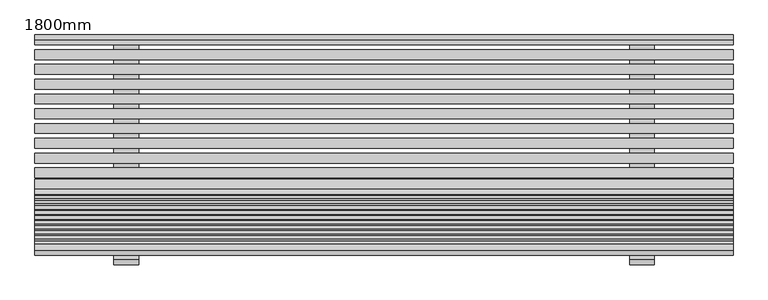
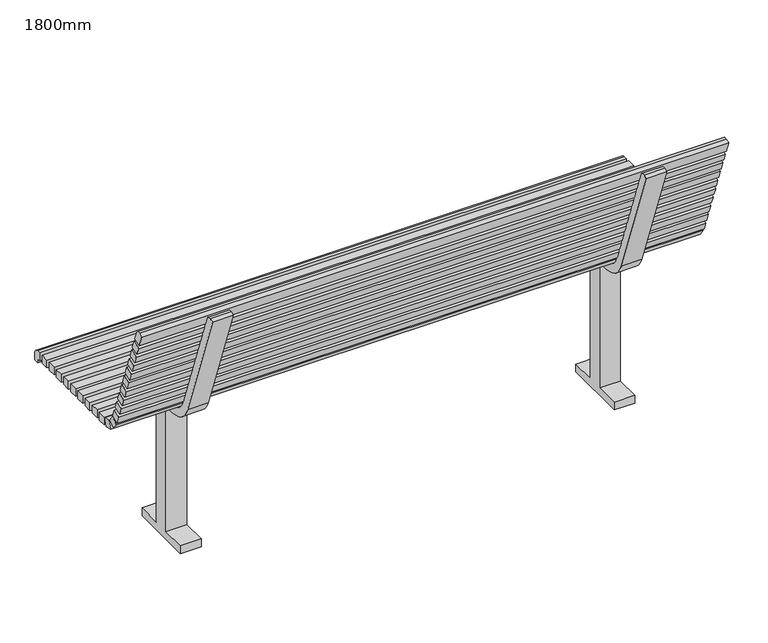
"""IFC4 building model written with IfcOpenShell, lengths in millimetres: geographic element geometry, M_Banco de parque : 1800mm."""

import ifcopenshell
import ifcopenshell.guid

model = None  # the IFC model being written
_history = None  # IfcOwnerHistory: only IFC2X3 demands one
_inside = {}  # id of a spatial element -> (the spatial element, [elements in it])
_under = {}  # id of a project, library or spatial element -> (it, [spatial elements below it])
_declared = {}  # id of a project -> (the project, [libraries it declares])
_typed = {}  # id of a type object -> (the type object, [elements of that type])
_made_of = {}  # id of a material, layer set ... -> (it, [elements and type objects made of it])


def new_model(schema):
    """Start an empty IFC model of exactly this schema.

    Asked for "IFC4X3", IfcOpenShell would pick the latest addendum, in which some entities
    have other attributes; the version numbers below select the first issue.
    IFC2X3 requires an IfcOwnerHistory on every rooted entity: one is made here for all.
    """
    global model, _history
    if schema == "IFC4X3":
        model = ifcopenshell.file(schema_version=(4, 3, 0, 0))
    else:
        model = ifcopenshell.file(schema=schema)
    _inside.clear()
    _under.clear()
    _declared.clear()
    _typed.clear()
    _made_of.clear()
    _history = None
    if model.schema == "IFC2X3":
        org = make("IfcOrganization", Name="unknown")
        user = make(
            "IfcPersonAndOrganization",
            ThePerson=make("IfcPerson", FamilyName="unknown"),
            TheOrganization=org,
        )
        app = make(
            "IfcApplication",
            ApplicationDeveloper=org,
            Version="unknown",
            ApplicationFullName="unknown",
            ApplicationIdentifier="unknown",
        )
        _history = make(
            "IfcOwnerHistory",
            OwningUser=user,
            OwningApplication=app,
            ChangeAction="ADDED",
            CreationDate=0,
        )
    return model


def make(cls, **values):
    """One entity of the class cls with the attributes given. An attribute that is None is left unset."""
    return model.create_entity(
        cls, **{name: value for name, value in values.items() if value is not None}
    )


def rooted(cls, **values):
    """An entity with a GlobalId (a new one), such as an element, a storey or a relation."""
    return make(cls, GlobalId=ifcopenshell.guid.new(), OwnerHistory=_history, **values)


def si_unit(unit_type, name, prefix=None):
    """IfcSIUnit, for example si_unit("LENGTHUNIT", "METRE", prefix="MILLI")."""
    return make("IfcSIUnit", UnitType=unit_type, Prefix=prefix, Name=name)


def assignment(units):
    """IfcUnitAssignment: the units of a project."""
    return None if units is None else make("IfcUnitAssignment", Units=units)


def point(xyz):
    """IfcCartesianPoint."""
    return None if xyz is None else make("IfcCartesianPoint", Coordinates=xyz)


def direction(xyz):
    """IfcDirection."""
    return None if xyz is None else make("IfcDirection", DirectionRatios=xyz)


def frame(location, z_axis=None, x_axis=None):
    """IfcAxis2Placement3D, a coordinate frame: its origin and axes. An axis left out is left unset."""
    return make(
        "IfcAxis2Placement3D",
        Location=point(location),
        Axis=direction(z_axis),
        RefDirection=direction(x_axis),
    )


def frame_2d(location, x_axis=None):
    """IfcAxis2Placement2D, a coordinate frame in the plane: its origin and x axis."""
    return make(
        "IfcAxis2Placement2D", Location=point(location), RefDirection=direction(x_axis)
    )


def origin():
    """The frame at (0, 0, 0) with its axes left unset."""
    return frame((0.0, 0.0, 0.0))


def place(relative_to, where):
    """IfcLocalPlacement: puts the frame where relative to a parent placement (None: the world)."""
    return make(
        "IfcLocalPlacement", PlacementRelTo=relative_to, RelativePlacement=where
    )


def context(
    kind, dimensions, precision=None, world=None, true_north=None, identifier=None
):
    """IfcGeometricRepresentationContext, for example the 3D "Model" context."""
    return make(
        "IfcGeometricRepresentationContext",
        ContextIdentifier=identifier,
        ContextType=kind,
        CoordinateSpaceDimension=dimensions,
        Precision=precision,
        WorldCoordinateSystem=world,
        TrueNorth=true_north,
    )


def project(units=None, contexts=None):
    """IfcProject with its units and contexts."""
    return rooted(
        "IfcProject",
        Name="project",
        RepresentationContexts=contexts,
        UnitsInContext=assignment(units),
    )


def spatial(cls, under=None, at=None, **own):
    """A site, building, storey or space (cls), placed at a placement, below another one or the project."""
    s = rooted(cls, ObjectPlacement=at, **own)
    if under is not None:
        _under.setdefault(under.id(), (under, []))[1].append(s)
    return s


def polyline(points):
    """IfcPolyline through the points."""
    return make("IfcPolyline", Points=[point(p) for p in points])


def circle_curve(where, radius):
    """IfcCircle in the frame where."""
    return make("IfcCircle", Position=where, Radius=radius)


def trimmed(basis, trim1, trim2, sense, master):
    """IfcTrimmedCurve: the piece of a basis curve between two trims."""
    return make(
        "IfcTrimmedCurve",
        BasisCurve=basis,
        Trim1=trim1,
        Trim2=trim2,
        SenseAgreement=sense,
        MasterRepresentation=master,
    )


def segment(curve, same_sense, transition):
    """IfcCompositeCurveSegment."""
    return make(
        "IfcCompositeCurveSegment",
        Transition=transition,
        SameSense=same_sense,
        ParentCurve=curve,
    )


def composite_curve(segments, self_intersect=None):
    """IfcCompositeCurve: segments joined end to end."""
    return make("IfcCompositeCurve", Segments=segments, SelfIntersect=self_intersect)


def outline(outer, holes=None, kind="AREA"):
    """IfcArbitraryClosedProfileDef: a profile drawn as a closed curve; with holes, ...WithVoids."""
    if holes is None:
        return make("IfcArbitraryClosedProfileDef", ProfileType=kind, OuterCurve=outer)
    return make(
        "IfcArbitraryProfileDefWithVoids",
        ProfileType=kind,
        OuterCurve=outer,
        InnerCurves=holes,
    )


def extrude(swept, where, along, depth):
    """IfcExtrudedAreaSolid: the profile swept, set in the frame where, extruded along a direction by depth."""
    return make(
        "IfcExtrudedAreaSolid",
        SweptArea=swept,
        Position=where,
        ExtrudedDirection=direction(along),
        Depth=depth,
    )


def shape(context_of_items, identifier, shape_type, items):
    """IfcShapeRepresentation: the items that make up one representation, for example the "Body"."""
    return make(
        "IfcShapeRepresentation",
        ContextOfItems=context_of_items,
        RepresentationIdentifier=identifier,
        RepresentationType=shape_type,
        Items=items,
    )


def source(mapping_origin, context_of_items, identifier, shape_type, items):
    """IfcRepresentationMap: a shape defined once, which mapped items show again and again."""
    return make(
        "IfcRepresentationMap",
        MappingOrigin=mapping_origin,
        MappedRepresentation=shape(context_of_items, identifier, shape_type, items),
    )


def transform(
    local_origin,
    x_axis=None,
    y_axis=None,
    z_axis=None,
    scale=None,
    scale2=None,
    scale3=None,
    uniform=True,
):
    """IfcCartesianTransformationOperator3D, or its non-uniform kind. x_axis, y_axis, z_axis: its Axis1, 2, 3."""
    if uniform:
        return make(
            "IfcCartesianTransformationOperator3D",
            Axis1=direction(x_axis),
            Axis2=direction(y_axis),
            LocalOrigin=point(local_origin),
            Scale=scale,
            Axis3=direction(z_axis),
        )
    return make(
        "IfcCartesianTransformationOperator3DnonUniform",
        Axis1=direction(x_axis),
        Axis2=direction(y_axis),
        LocalOrigin=point(local_origin),
        Scale=scale,
        Axis3=direction(z_axis),
        Scale2=scale2,
        Scale3=scale3,
    )


def mapped(mapping_source, mapping_target):
    """IfcMappedItem: shows the shape of a source again, moved by a transform."""
    return make(
        "IfcMappedItem", MappingSource=mapping_source, MappingTarget=mapping_target
    )


def made_of(thing, what):
    """Note that an element or type object is made of a material, layer set ...; save() writes the relation."""
    if what is not None:
        _made_of.setdefault(what.id(), (what, []))[1].append(thing)
    return thing


def element(
    cls,
    number,
    at=None,
    inside=None,
    cuts=None,
    type_object=None,
    material=None,
    context=None,
    identifier="Body",
    shape_type=None,
    held_by="IfcProductDefinitionShape",
    body=None,
    shapes=None,
    **own,
):
    """One element of the class cls, such as IfcWall. Its Tag is "e" and its number.

    at: its placement. inside: the storey or other place that contains it. cuts: it is an
    opening in that element (IfcRelVoidsElement). A single representation is given by context,
    identifier, shape_type and body (its items); several are given by shapes. held_by: the class
    of the entity that holds the representations. save() writes the other relations.
    """
    e = rooted(cls, Tag="e%d" % number, ObjectPlacement=at, **own)
    if body is not None:
        shapes = [shape(context, identifier, shape_type, body)]
    if shapes is not None:
        e.Representation = make(held_by, Representations=shapes)
    if inside is not None:
        _inside.setdefault(inside.id(), (inside, []))[1].append(e)
    if cuts is not None:
        rooted(
            "IfcRelVoidsElement", RelatingBuildingElement=cuts, RelatedOpeningElement=e
        )
    if type_object is not None:
        _typed.setdefault(type_object.id(), (type_object, []))[1].append(e)
    return made_of(e, material)


def aggregate(whole, parts):
    """IfcRelAggregates: a whole, such as a stair, and the parts it consists of."""
    return rooted("IfcRelAggregates", RelatingObject=whole, RelatedObjects=parts)


def save(model, path):
    """Write the relations noted so far, then the file.

    IfcRelAggregates (storeys below a building ...), IfcRelContainedInSpatialStructure (elements
    in a storey), IfcRelDefinesByType, IfcRelAssociatesMaterial and IfcRelDeclares: one each for
    every whole, place, type object, material and project.
    """
    for whole, parts in _under.values():
        aggregate(whole, parts)
    for where, things in _inside.values():
        rooted(
            "IfcRelContainedInSpatialStructure",
            RelatedElements=things,
            RelatingStructure=where,
        )
    for kind, things in _typed.values():
        rooted("IfcRelDefinesByType", RelatedObjects=things, RelatingType=kind)
    for what, things in _made_of.values():
        rooted("IfcRelAssociatesMaterial", RelatedObjects=things, RelatingMaterial=what)
    for by, libraries in _declared.values():
        rooted("IfcRelDeclares", RelatingContext=by, RelatedDefinitions=libraries)
    model.write(path)


def geographic_element_1800mm_804ad783(model_context):
    return source(origin(), model_context, "Body", "SweptSolid", [
        extrude(outline(polyline([(900.0, 255.4337104), (-900.0, 255.4337104), (-900.0, 280.8337104), (900.0, 280.8337104), (900.0, 255.4337104)])), frame((0.0, 0.0, 457.2), z_axis=(0.0, 0.0, 1.0), x_axis=(1.0, 0.0, 0.0)), (0.0, 0.0, 1.0), 25.4),
        extrude(outline(polyline([(900.0, 217.3337104), (-900.0, 217.3337104), (-900.0, 242.7337104), (900.0, 242.7337104), (900.0, 217.3337104)])), frame((0.0, 0.0, 457.2), z_axis=(0.0, 0.0, 1.0), x_axis=(1.0, 0.0, 0.0)), (0.0, 0.0, 1.0), 25.4),
        extrude(outline(polyline([(900.0, 179.2337104), (-900.0, 179.2337104), (-900.0, 204.6337104), (900.0, 204.6337104), (900.0, 179.2337104)])), frame((0.0, 0.0, 457.2), z_axis=(0.0, 0.0, 1.0), x_axis=(1.0, 0.0, 0.0)), (0.0, 0.0, 1.0), 25.4),
        extrude(outline(polyline([(900.0, 141.1337104), (-900.0, 141.1337104), (-900.0, 166.5337104), (900.0, 166.5337104), (900.0, 141.1337104)])), frame((0.0, 0.0, 457.2), z_axis=(0.0, 0.0, 1.0), x_axis=(1.0, 0.0, 0.0)), (0.0, 0.0, 1.0), 25.4),
        extrude(outline(polyline([(900.0, 103.0337104), (-900.0, 103.0337104), (-900.0, 128.4337104), (900.0, 128.4337104), (900.0, 103.0337104)])), frame((0.0, 0.0, 457.2), z_axis=(0.0, 0.0, 1.0), x_axis=(1.0, 0.0, 0.0)), (0.0, 0.0, 1.0), 25.4),
        extrude(outline(polyline([(900.0, 64.9337104), (-900.0, 64.9337104), (-900.0, 90.3337104), (900.0, 90.3337104), (900.0, 64.9337104)])), frame((0.0, 0.0, 457.2), z_axis=(0.0, 0.0, 1.0), x_axis=(1.0, 0.0, 0.0)), (0.0, 0.0, 1.0), 25.4),
        extrude(outline(polyline([(900.0, 26.8337104), (-900.0, 26.8337104), (-900.0, 52.2337104), (900.0, 52.2337104), (900.0, 26.8337104)])), frame((0.0, 0.0, 457.2), z_axis=(0.0, 0.0, 1.0), x_axis=(1.0, 0.0, 0.0)), (0.0, 0.0, 1.0), 25.4),
        extrude(outline(polyline([(900.0, -11.2662896), (-900.0, -11.2662896), (-900.0, 14.1337104), (900.0, 14.1337104), (900.0, -11.2662896)])), frame((0.0, 0.0, 457.2), z_axis=(0.0, 0.0, 1.0), x_axis=(1.0, 0.0, 0.0)), (0.0, 0.0, 1.0), 25.4),
        extrude(outline(polyline([(900.0, -49.3662896), (-900.0, -49.3662896), (-900.0, -23.9662896), (900.0, -23.9662896), (900.0, -49.3662896)])), frame((0.0, 0.0, 457.2), z_axis=(0.0, 0.0, 1.0), x_axis=(1.0, 0.0, 0.0)), (0.0, 0.0, 1.0), 25.4),
        extrude(outline(composite_curve([segment(polyline([(304.8, 457.2), (293.5337104, 457.2), (293.5337104, 482.6), (304.6462104, 482.6)]), True, "CONTINUOUS"), segment(trimmed(circle_curve(frame_2d((304.6462104, 468.3125)), 14.2875), [point((304.6462104, 482.6))], [point((318.9337104, 468.3125))], False, "CARTESIAN"), True, "CONTINUOUS"), segment(polyline([(318.9337104, 468.3125), (318.9337104, 444.5), (304.8, 444.5), (304.8, 457.2)]), True, "CONTINUOUS")], self_intersect=False)), frame((-900.0, 0.0, 0.0), z_axis=(1.0, 0.0, 0.0), x_axis=(0.0, 1.0, 0.0)), (0.0, 0.0, 1.0), 1800.0),
        extrude(outline(polyline([(0.0, 25.4), (1800.0, 25.4), (1800.0, 0.0), (0.0, 0.0), (0.0, 25.4)])), frame((900.0, -121.2738625, 585.5181247), z_axis=(0.0, -0.342020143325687, 0.9396926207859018), x_axis=(-1.0, 0.0, 0.0)), (0.0, 0.0, 1.0), 25.4),
        extrude(outline(polyline([(0.0, 25.4), (1800.0, 25.4), (1800.0, 0.0), (0.0, 0.0), (0.0, 25.4)])), frame((900.0, -134.30483, 621.3204136), z_axis=(0.0, -0.34202014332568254, 0.9396926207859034), x_axis=(-1.0, 0.0, 0.0)), (0.0, 0.0, 1.0), 25.4),
        extrude(outline(polyline([(0.0, 25.3999999), (1800.0, 25.3999999), (1800.0, 0.0), (0.0, 0.0), (0.0, 25.3999999)])), frame((900.0, -95.2119276, 513.913547), z_axis=(0.0, -0.34202014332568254, 0.9396926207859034), x_axis=(-1.0, 0.0, 0.0)), (0.0, 0.0, 1.0), 25.4),
        extrude(outline(polyline([(0.0, 25.4000001), (1800.0, 25.4000001), (1800.0, 0.0), (0.0, 0.0), (0.0, 25.4000001)])), frame((900.0, -108.242895, 549.7158359), z_axis=(0.0, -0.34202014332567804, 0.9396926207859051), x_axis=(-1.0, 0.0, 0.0)), (0.0, 0.0, 1.0), 25.4),
        extrude(outline(polyline([(0.0, 25.4), (1800.0, 25.4), (1800.0, 0.0), (0.0, 0.0), (0.0, 25.4)])), frame((900.0, -173.3977323, 728.7272801), z_axis=(0.0, -0.34202014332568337, 0.9396926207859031), x_axis=(-1.0, 0.0, 0.0)), (0.0, 0.0, 1.0), 25.4),
        extrude(outline(polyline([(0.0, 25.4000001), (1800.0, 25.4000001), (1800.0, 0.0), (0.0, 0.0), (0.0, 25.4000001)])), frame((900.0, -186.4286998, 764.529569), z_axis=(0.0, -0.3420201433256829, 0.9396926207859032), x_axis=(-1.0, 0.0, 0.0)), (0.0, 0.0, 1.0), 25.4),
        extrude(outline(polyline([(0.0, 25.4), (1800.0, 25.4), (1800.0, 0.0), (0.0, 0.0), (0.0, 25.4)])), frame((900.0, -147.3357974, 657.1227024), z_axis=(0.0, -0.3420201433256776, 0.9396926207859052), x_axis=(-1.0, 0.0, 0.0)), (0.0, 0.0, 1.0), 25.4),
        extrude(outline(polyline([(0.0, 25.4), (1800.0, 25.4), (1800.0, 0.0), (0.0, 0.0), (0.0, 25.4)])), frame((900.0, -160.3667649, 692.9249913), z_axis=(0.0, -0.34202014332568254, 0.9396926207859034), x_axis=(-1.0, 0.0, 0.0)), (0.0, 0.0, 1.0), 25.4),
        extrude(outline(polyline([(0.0, 25.3999999), (1800.0, 25.3999999), (1800.0, 0.0), (0.0, 0.0), (0.0, 25.3999999)])), frame((900.0, -199.4596673, 800.3318578), z_axis=(0.0, -0.3420201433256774, 0.9396926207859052), x_axis=(-1.0, 0.0, 0.0)), (0.0, 0.0, 1.0), 25.4),
        extrude(outline(composite_curve([segment(polyline([(-249.3897948, 863.2491239), (-237.4556985, 867.5927797)]), True, "CONTINUOUS"), segment(trimmed(circle_curve(frame_2d((-233.1120426, 855.6586834)), 12.7), [point((-237.4556985, 867.5927797))], [point((-221.1779464, 860.0023393))], False, "CARTESIAN"), True, "CONTINUOUS"), segment(polyline([(-221.1779464, 860.0023393), (-212.4906347, 836.1341467), (-236.3588273, 827.4468351), (-249.3897948, 863.2491239)]), True, "CONTINUOUS")], self_intersect=False)), frame((-900.0, 0.0, 0.0), z_axis=(1.0, 0.0, 0.0), x_axis=(0.0, 1.0, 0.0)), (0.0, 0.0, 1.0), 1800.0),
        extrude(outline(polyline([(0.0, 25.4), (1800.0, 25.4), (1800.0, 0.0), (0.0, 0.0), (0.0, 25.4)])), frame((900.0, -78.7855779, 490.7267336), z_axis=(0.0, -0.5735764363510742, 0.8191520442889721), x_axis=(-1.0, 0.0, 0.0)), (0.0, 0.0, 1.0), 25.4),
        extrude(outline(polyline([(0.0, 25.4), (1800.0, 25.4), (1800.0, 0.0), (0.0, 0.0), (0.0, 25.4)])), frame((900.0, -59.0817015, 457.2297909), z_axis=(0.0, 0.2588190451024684, 0.9659258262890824), x_axis=(-1.0, 0.0, 0.0)), (0.0, 0.0, 1.0), 25.4),
        extrude(outline(composite_curve([segment(polyline([(101.6, 25.4), (101.6, 0.0), (-101.6, 0.0), (-101.6, 25.4), (-25.4, 25.4), (-25.4, 431.8), (-57.1368213, 431.8)]), True, "CONTINUOUS"), segment(trimmed(circle_curve(frame_2d((-57.1368213, 520.7)), 88.9), [point((-57.1368213, 431.8))], [point((-140.6754953, 490.2944093))], False, "CARTESIAN"), True, "CONTINUOUS"), segment(polyline([(-140.6754953, 490.2944093), (-273.1524905, 854.271962), (-261.2183942, 858.6156178)]), True, "CONTINUOUS"), segment(trimmed(circle_curve(frame_2d((-256.8747384, 846.6815216)), 12.7), [point((-261.2183942, 858.6156178))], [point((-244.9406421, 851.0251774))], False, "CARTESIAN"), True, "CONTINUOUS"), segment(polyline([(-244.9406421, 851.0251774), (-116.8073027, 498.9817209)]), True, "CONTINUOUS"), segment(trimmed(circle_curve(frame_2d((-57.1368213, 520.7)), 63.5), [point((-116.8073027, 498.9817209))], [point((-57.1368213, 457.2))], True, "CARTESIAN"), True, "CONTINUOUS"), segment(polyline([(-57.1368213, 457.2), (304.8, 457.2), (304.8, 431.8), (25.4, 431.8), (25.4, 25.4), (101.6, 25.4)]), True, "CONTINUOUS")], self_intersect=False)), frame((633.9736591, 0.0, 0.0), z_axis=(1.0, 0.0, 0.0), x_axis=(0.0, 1.0, 0.0)), (0.0, 0.0, 1.0), 62.8263409),
        extrude(outline(composite_curve([segment(polyline([(101.6, 25.4), (101.6, 0.0), (-101.6, 0.0), (-101.6, 25.4), (-25.4, 25.4), (-25.4, 431.8), (-57.1368213, 431.8)]), True, "CONTINUOUS"), segment(trimmed(circle_curve(frame_2d((-57.1368213, 520.7)), 88.9), [point((-57.1368213, 431.8))], [point((-140.6754953, 490.2944093))], False, "CARTESIAN"), True, "CONTINUOUS"), segment(polyline([(-140.6754953, 490.2944093), (-273.1524905, 854.271962), (-261.2183942, 858.6156178)]), True, "CONTINUOUS"), segment(trimmed(circle_curve(frame_2d((-256.8747384, 846.6815216)), 12.7), [point((-261.2183942, 858.6156178))], [point((-244.9406421, 851.0251774))], False, "CARTESIAN"), True, "CONTINUOUS"), segment(polyline([(-244.9406421, 851.0251774), (-116.8073027, 498.9817209)]), True, "CONTINUOUS"), segment(trimmed(circle_curve(frame_2d((-57.1368213, 520.7)), 63.5), [point((-116.8073027, 498.9817209))], [point((-57.1368213, 457.2))], True, "CARTESIAN"), True, "CONTINUOUS"), segment(polyline([(-57.1368213, 457.2), (304.8, 457.2), (304.8, 431.8), (25.4, 431.8), (25.4, 25.4), (101.6, 25.4)]), True, "CONTINUOUS")], self_intersect=False)), frame((-696.8, 0.0, 0.0), z_axis=(1.0, 0.0, 0.0), x_axis=(0.0, 1.0, 0.0)), (0.0, 0.0, 1.0), 63.8916859),
    ])


if __name__ == "__main__":
    model = new_model("IFC4")
    model_context = context("Model", 3, world=origin())
    ifc_project = project(units=[si_unit("LENGTHUNIT", "METRE", prefix="MILLI")], contexts=[model_context])
    site = spatial("IfcSite", under=ifc_project)
    building = spatial("IfcBuilding", under=site)
    placement = place(None, origin())
    geographic_element_1800mm_shape = geographic_element_1800mm_804ad783(model_context)
    element("IfcGeographicElement", 1, ObjectType="M_Banco de parque : 1800mm", at=placement, inside=building, context=model_context, shape_type="MappedRepresentation", body=[
        mapped(geographic_element_1800mm_shape, transform((0.0, 0.0, 0.0), x_axis=(1.0, 0.0, 0.0), y_axis=(0.0, 1.0, 0.0), z_axis=(0.0, 0.0, 1.0))),
    ])
    save(model, "model.ifc")
